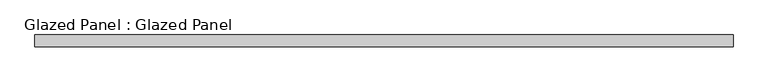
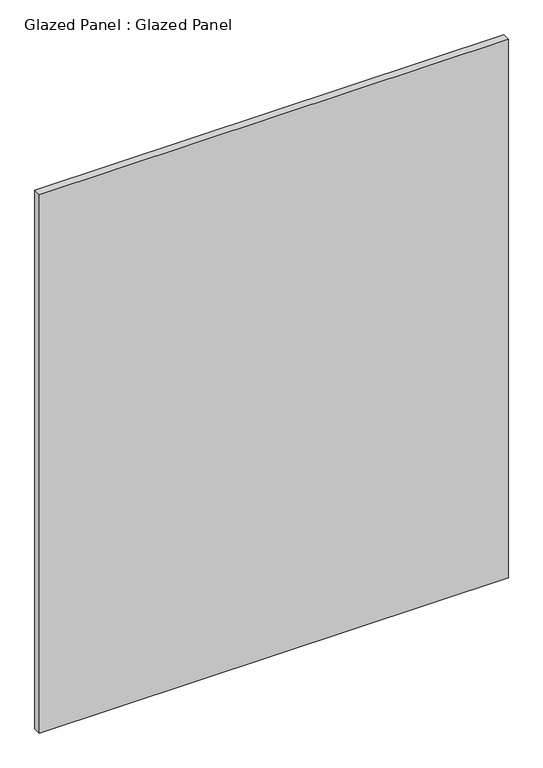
"""IFC4 building model written with IfcOpenShell, lengths in millimetres: plate geometry, Glazed Panel : Glazed Panel."""

from ifc_helpers import new_model, si_unit, origin, origin_with_axes, place, context, project, spatial, polyline, outline, extrude, source, transform, mapped, element, save


def glazed_panel_glazed_panel_3049fc2b(model_context):
    return source(origin(), model_context, "Body", "SweptSolid", [
        extrude(outline(polyline([(756.3120865, -38.1), (756.3120865, -63.5), (-756.3120865, -63.5), (-756.3120865, -38.1), (756.3120865, -38.1)])), origin_with_axes(), (0.0, 0.0, 1.0), 1835.15),
    ])


if __name__ == "__main__":
    model = new_model("IFC4")
    model_context = context("Model", 3, world=origin())
    ifc_project = project(units=[si_unit("LENGTHUNIT", "METRE", prefix="MILLI")], contexts=[model_context])
    site = spatial("IfcSite", under=ifc_project)
    building = spatial("IfcBuilding", under=site)
    placement = place(None, origin())
    glazed_panel_glazed_panel_shape = glazed_panel_glazed_panel_3049fc2b(model_context)
    element("IfcPlate", 1, ObjectType="Glazed Panel : Glazed Panel", at=placement, inside=building, context=model_context, shape_type="MappedRepresentation", body=[
        mapped(glazed_panel_glazed_panel_shape, transform((0.0, 0.0, 0.0), x_axis=(1.0, 0.0, 0.0), y_axis=(0.0, 1.0, 0.0), z_axis=(0.0, 0.0, 1.0))),
    ])
    save(model, "model.ifc")
